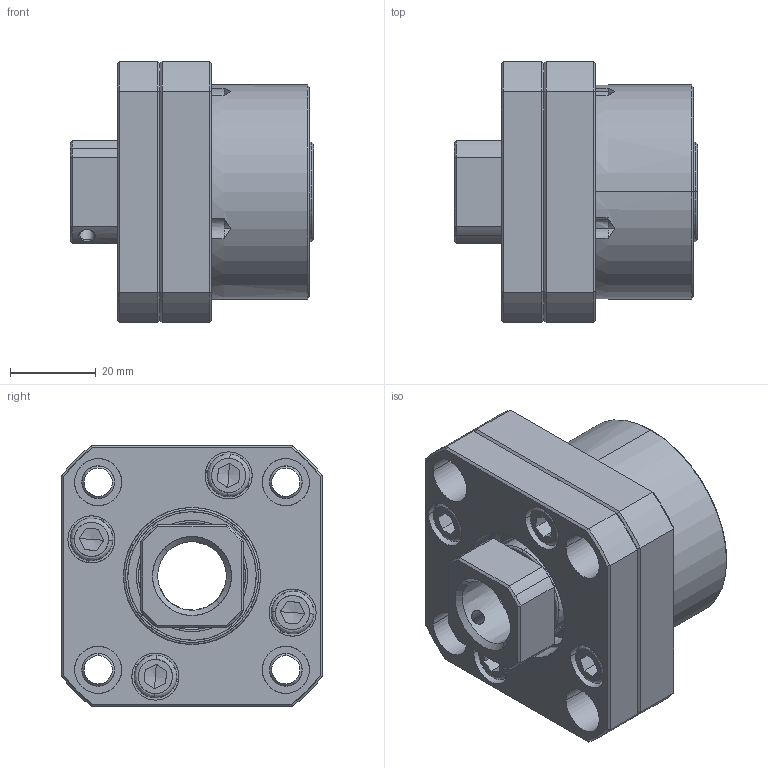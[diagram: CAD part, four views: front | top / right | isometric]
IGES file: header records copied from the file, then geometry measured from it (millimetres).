
Start section: SolidWorks IGES file using analytic representation for surfaces
Global section: file name: 4HC:\Users\117\Desktop\FK17組合A.IGS; native system: SolidWorks 2018; preprocessor: SolidWorks 2018; author: 117; date: 210929.092418; units: millimetre
Bounding box: 57 x 61 x 61 mm (x, y, z)
Surface area: 28193.1 mm2 (no closed solid volume)
Topology: 0 solids, 0 shells, 229 faces, 2834 edges, 2826 vertices
Faces by surface type: revolution 131, bspline 98
